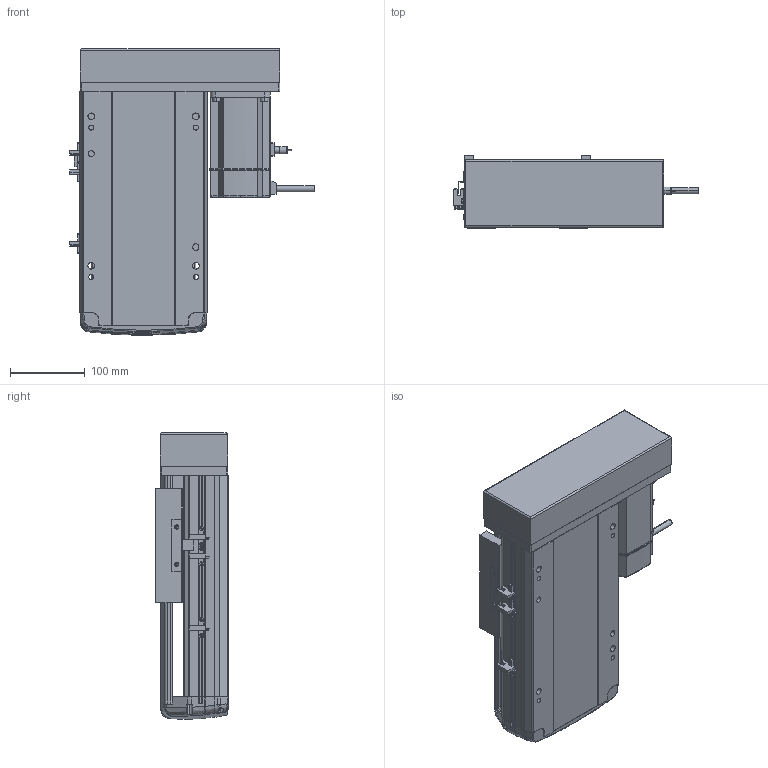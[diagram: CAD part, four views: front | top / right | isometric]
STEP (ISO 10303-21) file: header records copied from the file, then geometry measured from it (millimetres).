
FILE_DESCRIPTION (( 'STEP AP214' ), '1' );
FILE_NAME ('RTH17-XX-100-L-M75-C4.STEP', '2025-10-24T10:30:05', ( '' ), ( '' ), 'SwSTEP 2.0', 'SolidWorks 2018', '' );
FILE_SCHEMA (( 'AUTOMOTIVE_DESIGN' ));
Length unit declared in the file: millimetre
Products named in the file (10): N_RTH17-M-007上盖^RTH17-XX-XX-L-M75-C4（方程式）; N_OMRON EE-SX672 換覜ん^RTH17-XX-XX-L-M75-C4ㄗ源最宒ㄘ; N_RTH17-E-004丝杆螺母连接座^RTH17-XX-XX-L-M75-C4（方程式）; N_M75^RTH17-XX-XX-L-M75-C4（方程式）; N_RTH17-M-011底座^RTH17-XX-XX-L-M75-C4（方程式）; N_RTH17-L-008-P75电机安装板左转折^RTH17-XX-XX-L-M75-C4（方程式）; RTH17-XX-100-L-M75-C4; N_RTH17-L-018盖子^RTH17-XX-XX-L-M75-C4（方程式）; N_RTH17-GY-001P^RTH17-XX-XX-L-M75-C4（方程式）; N_RTH-L-012 感应片(外置)^RTH17-XX-XX-L-M75-C4（方程式）
Assembly tree (11 placements, depth 2):
  RTH17-XX-100-L-M75-C4
    N_RTH17-M-011底座^RTH17-XX-XX-L-M75-C4（方程式）
    N_RTH17-M-007上盖^RTH17-XX-XX-L-M75-C4（方程式）
    N_M75^RTH17-XX-XX-L-M75-C4（方程式）
    N_OMRON EE-SX672 換覜ん^RTH17-XX-XX-L-M75-C4ㄗ源最宒ㄘ  x3
    N_RTH-L-012 感应片(外置)^RTH17-XX-XX-L-M75-C4（方程式）
    N_RTH17-L-008-P75电机安装板左转折^RTH17-XX-XX-L-M75-C4（方程式）
    N_RTH17-L-018盖子^RTH17-XX-XX-L-M75-C4（方程式）
    N_RTH17-E-004丝杆螺母连接座^RTH17-XX-XX-L-M75-C4（方程式）
    N_RTH17-GY-001P^RTH17-XX-XX-L-M75-C4（方程式）
Bounding box: 326.7 x 97 x 383.07 mm (x, y, z)
Volume: 5028673 mm3; surface area: 631834.8 mm2
Topology: 13 solids, 15 shells, 1693 faces, 4619 edges, 2986 vertices
Faces by surface type: plane 825, cylinder 454, bspline 377, cone 28, torus 9
Entity records: 48373 total; most frequent: CARTESIAN_POINT 19479, ORIENTED_EDGE 6262, DIRECTION 5203, EDGE_CURVE 3135, VERTEX_POINT 2022, LINE 1745, VECTOR 1745, AXIS2_PLACEMENT_3D 1729
